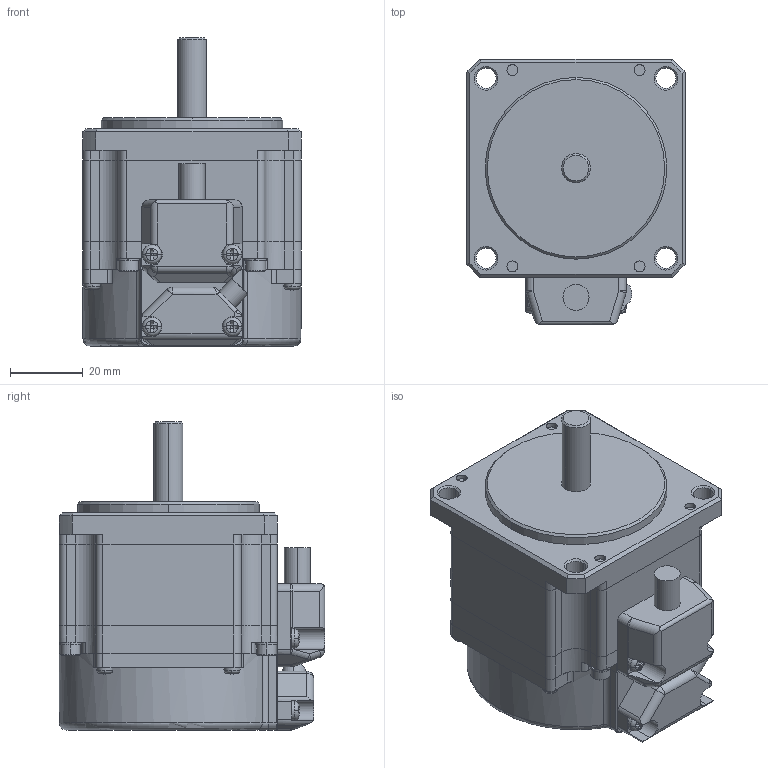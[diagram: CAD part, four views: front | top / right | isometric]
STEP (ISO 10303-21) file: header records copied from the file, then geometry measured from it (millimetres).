
FILE_DESCRIPTION(('Creo Elements/Direct Modeling STEP Export'),'2;1');
FILE_NAME('TS4606_BK無.stp','2016-12-22T16:28:36',(''),(''),'Creo Elements/Direct Modeling STEP processor for AP214 (Solid Model)','Creo Elements/Direct Modeling 17.0F 20-Aug-2012 (C) Parametric Technology GmbH','');
FILE_SCHEMA(('AUTOMOTIVE_DESIGN { 1 0 10303 214 1 1 1 1 }'));
Length unit declared in the file: millimetre
Products named in the file (1): TS4606N1000
Bounding box: 60 x 73 x 84.8 mm (x, y, z)
Volume: 204693.4 mm3; surface area: 23868.6 mm2
Topology: 1 solids, 1 shells, 684 faces, 1600 edges, 909 vertices
Faces by surface type: plane 327, cylinder 229, cone 76, sphere 29, torus 21, bspline 2
Entity records: 19357 total; most frequent: CARTESIAN_POINT 4458, ORIENTED_EDGE 3158, DIRECTION 3153, EDGE_CURVE 1579, AXIS2_PLACEMENT_3D 1240, VERTEX_POINT 909, EDGE_LOOP 712, FACE_OUTER_BOUND 684
